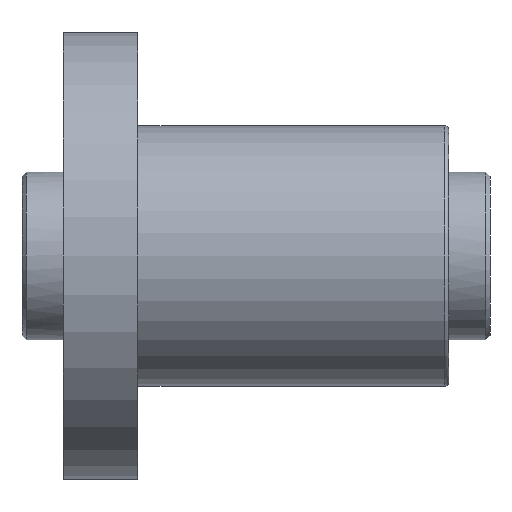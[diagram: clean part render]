
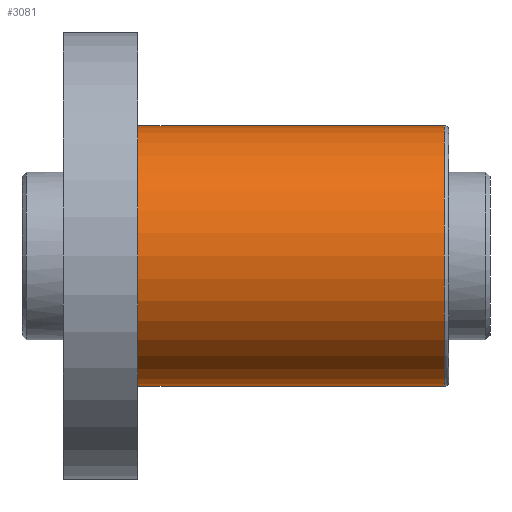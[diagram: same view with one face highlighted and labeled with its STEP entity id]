
A CAD part, front view. The second image highlights one B-rep face of the part: STEP entity #3081.
In plain terms, the highlighted cylindrical face has radius 31.5 mm (diameter 63 mm), a partial arc.
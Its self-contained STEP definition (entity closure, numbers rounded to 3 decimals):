
#62 = VERTEX_POINT ( 'NONE', #1826 ) ;
#164 = ORIENTED_EDGE ( 'NONE', *, *, #445, .F. ) ;
#220 = VERTEX_POINT ( 'NONE', #2156 ) ;
#259 = ORIENTED_EDGE ( 'NONE', *, *, #1218, .T. ) ;
#445 = EDGE_CURVE ( 'NONE', #3074, #851, #1062, .T. ) ;
#493 = CARTESIAN_POINT ( 'NONE',  ( 0., 0., 0. ) ) ;
#543 = CARTESIAN_POINT ( 'NONE',  ( 0., 0., -31.5 ) ) ;
#704 = CIRCLE ( 'NONE', #1143, 31.5 ) ;
#851 = VERTEX_POINT ( 'NONE', #3363 ) ;
#915 = CARTESIAN_POINT ( 'NONE',  ( 18., 0., 0. ) ) ;
#1037 = CARTESIAN_POINT ( 'NONE',  ( 92., 0., 0. ) ) ;
#1062 = LINE ( 'NONE', #543, #2154 ) ;
#1135 = CIRCLE ( 'NONE', #2158, 31.5 ) ;
#1143 = AXIS2_PLACEMENT_3D ( 'NONE', #915, #3634, #2452 ) ;
#1175 = LINE ( 'NONE', #2389, #3794 ) ;
#1218 = EDGE_CURVE ( 'NONE', #62, #220, #1175, .T. ) ;
#1395 = DIRECTION ( 'NONE',  ( 0., 0., 1. ) ) ;
#1826 = CARTESIAN_POINT ( 'NONE',  ( 92., 0., 31.5 ) ) ;
#1977 = CARTESIAN_POINT ( 'NONE',  ( 92., 0., -31.5 ) ) ;
#2154 = VECTOR ( 'NONE', #2942, 1000. ) ;
#2156 = CARTESIAN_POINT ( 'NONE',  ( 18., 0., 31.5 ) ) ;
#2158 = AXIS2_PLACEMENT_3D ( 'NONE', #1037, #3455, #1395 ) ;
#2302 = ORIENTED_EDGE ( 'NONE', *, *, #2830, .T. ) ;
#2389 = CARTESIAN_POINT ( 'NONE',  ( 0., 0., 31.5 ) ) ;
#2452 = DIRECTION ( 'NONE',  ( 0., 0., 1. ) ) ;
#2460 = EDGE_LOOP ( 'NONE', ( #164, #2302, #259, #3526 ) ) ;
#2467 = CYLINDRICAL_SURFACE ( 'NONE', #2803, 31.5 ) ;
#2679 = DIRECTION ( 'NONE',  ( -1., 0., 0. ) ) ;
#2803 = AXIS2_PLACEMENT_3D ( 'NONE', #493, #3766, #2905 ) ;
#2830 = EDGE_CURVE ( 'NONE', #3074, #62, #1135, .T. ) ;
#2905 = DIRECTION ( 'NONE',  ( 0., 0., 1. ) ) ;
#2942 = DIRECTION ( 'NONE',  ( -1., 0., 0. ) ) ;
#3074 = VERTEX_POINT ( 'NONE', #1977 ) ;
#3081 = ADVANCED_FACE ( 'NONE', ( #3391 ), #2467, .T. ) ;
#3131 = EDGE_CURVE ( 'NONE', #851, #220, #704, .T. ) ;
#3363 = CARTESIAN_POINT ( 'NONE',  ( 18., 0., -31.5 ) ) ;
#3391 = FACE_OUTER_BOUND ( 'NONE', #2460, .T. ) ;
#3455 = DIRECTION ( 'NONE',  ( -1., 0., 0. ) ) ;
#3526 = ORIENTED_EDGE ( 'NONE', *, *, #3131, .F. ) ;
#3634 = DIRECTION ( 'NONE',  ( -1., 0., 0. ) ) ;
#3766 = DIRECTION ( 'NONE',  ( -1., 0., 0. ) ) ;
#3794 = VECTOR ( 'NONE', #2679, 1000. ) ;
